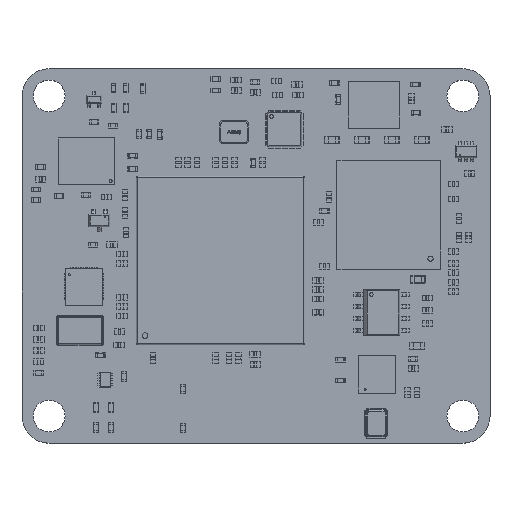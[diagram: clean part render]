
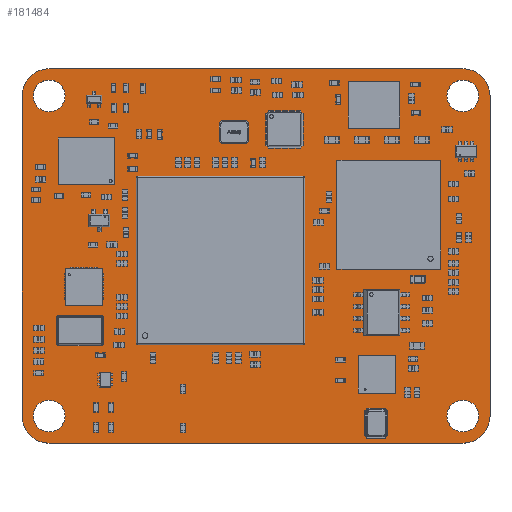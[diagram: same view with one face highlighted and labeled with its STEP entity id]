
A CAD part, top view. The second image highlights one B-rep face of the part: STEP entity #181484.
In plain terms, the highlighted planar face has unit normal (0, 0, 1).
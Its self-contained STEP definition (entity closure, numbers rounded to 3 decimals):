
#181291 = VERTEX_POINT('',#181292);
#181292 = CARTESIAN_POINT('',(22.1,20.,1.51));
#181298 = EDGE_CURVE('',#181291,#181299,#181301,.T.);
#181299 = VERTEX_POINT('',#181300);
#181300 = CARTESIAN_POINT('',(25.,17.1,1.51));
#181301 = CIRCLE('',#181302,2.9);
#181302 = AXIS2_PLACEMENT_3D('',#181303,#181304,#181305);
#181303 = CARTESIAN_POINT('',(22.1,17.1,1.51));
#181304 = DIRECTION('',(0.,0.,-1.));
#181305 = DIRECTION('',(0.,1.,0.));
#181333 = VERTEX_POINT('',#181334);
#181334 = CARTESIAN_POINT('',(-22.1,20.,1.51));
#181340 = EDGE_CURVE('',#181333,#181291,#181341,.T.);
#181341 = LINE('',#181342,#181343);
#181342 = CARTESIAN_POINT('',(-22.1,20.,1.51));
#181343 = VECTOR('',#181344,1.);
#181344 = DIRECTION('',(1.,0.,0.));
#181362 = EDGE_CURVE('',#181299,#181363,#181365,.T.);
#181363 = VERTEX_POINT('',#181364);
#181364 = CARTESIAN_POINT('',(25.,-17.1,1.51));
#181365 = LINE('',#181366,#181367);
#181366 = CARTESIAN_POINT('',(25.,17.1,1.51));
#181367 = VECTOR('',#181368,1.);
#181368 = DIRECTION('',(0.,-1.,0.));
#181484 = ADVANCED_FACE('',(#181485,#181531,#181542,#181553,#181564),
  #181575,.T.);
#181485 = FACE_BOUND('',#181486,.T.);
#181486 = EDGE_LOOP('',(#181487,#181488,#181489,#181498,#181506,#181515,
    #181523,#181530));
#181487 = ORIENTED_EDGE('',*,*,#181298,.F.);
#181488 = ORIENTED_EDGE('',*,*,#181340,.F.);
#181489 = ORIENTED_EDGE('',*,*,#181490,.F.);
#181490 = EDGE_CURVE('',#181491,#181333,#181493,.T.);
#181491 = VERTEX_POINT('',#181492);
#181492 = CARTESIAN_POINT('',(-25.,17.1,1.51));
#181493 = CIRCLE('',#181494,2.9);
#181494 = AXIS2_PLACEMENT_3D('',#181495,#181496,#181497);
#181495 = CARTESIAN_POINT('',(-22.1,17.1,1.51));
#181496 = DIRECTION('',(0.,0.,-1.));
#181497 = DIRECTION('',(-1.,0.,-0.));
#181498 = ORIENTED_EDGE('',*,*,#181499,.F.);
#181499 = EDGE_CURVE('',#181500,#181491,#181502,.T.);
#181500 = VERTEX_POINT('',#181501);
#181501 = CARTESIAN_POINT('',(-25.,-17.1,1.51));
#181502 = LINE('',#181503,#181504);
#181503 = CARTESIAN_POINT('',(-25.,-17.1,1.51));
#181504 = VECTOR('',#181505,1.);
#181505 = DIRECTION('',(0.,1.,0.));
#181506 = ORIENTED_EDGE('',*,*,#181507,.F.);
#181507 = EDGE_CURVE('',#181508,#181500,#181510,.T.);
#181508 = VERTEX_POINT('',#181509);
#181509 = CARTESIAN_POINT('',(-22.1,-20.,1.51));
#181510 = CIRCLE('',#181511,2.9);
#181511 = AXIS2_PLACEMENT_3D('',#181512,#181513,#181514);
#181512 = CARTESIAN_POINT('',(-22.1,-17.1,1.51));
#181513 = DIRECTION('',(0.,0.,-1.));
#181514 = DIRECTION('',(0.,-1.,0.));
#181515 = ORIENTED_EDGE('',*,*,#181516,.F.);
#181516 = EDGE_CURVE('',#181517,#181508,#181519,.T.);
#181517 = VERTEX_POINT('',#181518);
#181518 = CARTESIAN_POINT('',(22.1,-20.,1.51));
#181519 = LINE('',#181520,#181521);
#181520 = CARTESIAN_POINT('',(22.1,-20.,1.51));
#181521 = VECTOR('',#181522,1.);
#181522 = DIRECTION('',(-1.,0.,0.));
#181523 = ORIENTED_EDGE('',*,*,#181524,.F.);
#181524 = EDGE_CURVE('',#181363,#181517,#181525,.T.);
#181525 = CIRCLE('',#181526,2.9);
#181526 = AXIS2_PLACEMENT_3D('',#181527,#181528,#181529);
#181527 = CARTESIAN_POINT('',(22.1,-17.1,1.51));
#181528 = DIRECTION('',(0.,0.,-1.));
#181529 = DIRECTION('',(1.,0.,0.));
#181530 = ORIENTED_EDGE('',*,*,#181362,.F.);
#181531 = FACE_BOUND('',#181532,.T.);
#181532 = EDGE_LOOP('',(#181533));
#181533 = ORIENTED_EDGE('',*,*,#181534,.T.);
#181534 = EDGE_CURVE('',#181535,#181535,#181537,.T.);
#181535 = VERTEX_POINT('',#181536);
#181536 = CARTESIAN_POINT('',(-22.1,-18.8,1.51));
#181537 = CIRCLE('',#181538,1.7);
#181538 = AXIS2_PLACEMENT_3D('',#181539,#181540,#181541);
#181539 = CARTESIAN_POINT('',(-22.1,-17.1,1.51));
#181540 = DIRECTION('',(-0.,0.,-1.));
#181541 = DIRECTION('',(-0.,-1.,0.));
#181542 = FACE_BOUND('',#181543,.T.);
#181543 = EDGE_LOOP('',(#181544));
#181544 = ORIENTED_EDGE('',*,*,#181545,.T.);
#181545 = EDGE_CURVE('',#181546,#181546,#181548,.T.);
#181546 = VERTEX_POINT('',#181547);
#181547 = CARTESIAN_POINT('',(22.1,-18.8,1.51));
#181548 = CIRCLE('',#181549,1.7);
#181549 = AXIS2_PLACEMENT_3D('',#181550,#181551,#181552);
#181550 = CARTESIAN_POINT('',(22.1,-17.1,1.51));
#181551 = DIRECTION('',(-0.,0.,-1.));
#181552 = DIRECTION('',(-0.,-1.,0.));
#181553 = FACE_BOUND('',#181554,.T.);
#181554 = EDGE_LOOP('',(#181555));
#181555 = ORIENTED_EDGE('',*,*,#181556,.T.);
#181556 = EDGE_CURVE('',#181557,#181557,#181559,.T.);
#181557 = VERTEX_POINT('',#181558);
#181558 = CARTESIAN_POINT('',(-22.1,15.4,1.51));
#181559 = CIRCLE('',#181560,1.7);
#181560 = AXIS2_PLACEMENT_3D('',#181561,#181562,#181563);
#181561 = CARTESIAN_POINT('',(-22.1,17.1,1.51));
#181562 = DIRECTION('',(-0.,0.,-1.));
#181563 = DIRECTION('',(-0.,-1.,0.));
#181564 = FACE_BOUND('',#181565,.T.);
#181565 = EDGE_LOOP('',(#181566));
#181566 = ORIENTED_EDGE('',*,*,#181567,.T.);
#181567 = EDGE_CURVE('',#181568,#181568,#181570,.T.);
#181568 = VERTEX_POINT('',#181569);
#181569 = CARTESIAN_POINT('',(22.1,15.4,1.51));
#181570 = CIRCLE('',#181571,1.7);
#181571 = AXIS2_PLACEMENT_3D('',#181572,#181573,#181574);
#181572 = CARTESIAN_POINT('',(22.1,17.1,1.51));
#181573 = DIRECTION('',(-0.,0.,-1.));
#181574 = DIRECTION('',(-0.,-1.,0.));
#181575 = PLANE('',#181576);
#181576 = AXIS2_PLACEMENT_3D('',#181577,#181578,#181579);
#181577 = CARTESIAN_POINT('',(0.,0.,1.51));
#181578 = DIRECTION('',(0.,0.,1.));
#181579 = DIRECTION('',(1.,0.,-0.));
